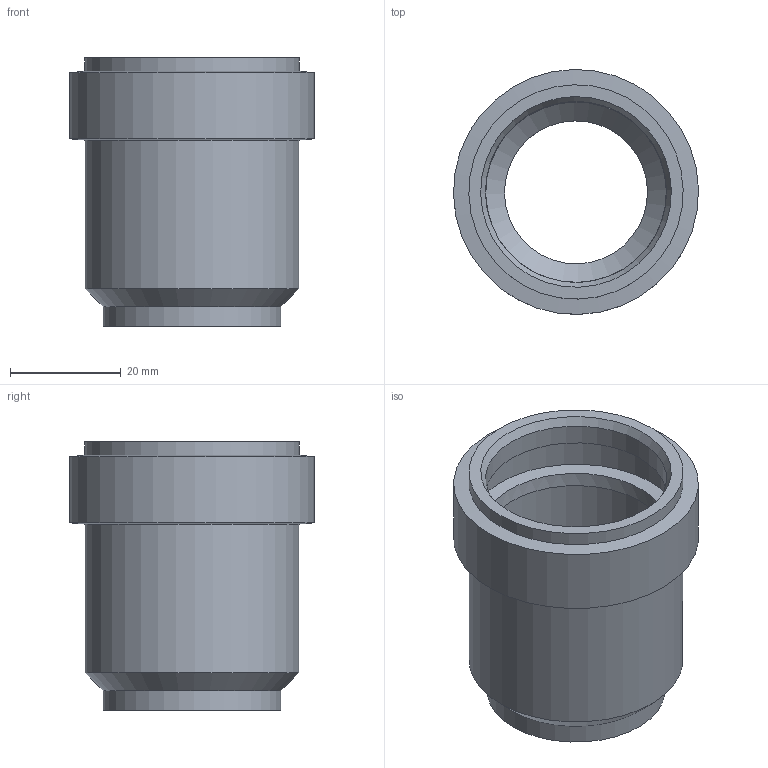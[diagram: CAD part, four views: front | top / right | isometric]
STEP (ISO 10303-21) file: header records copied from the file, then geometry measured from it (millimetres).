
FILE_DESCRIPTION(/* description */ ('CAx-IF Rec.Pracs.---Model Styling and Organization---1.2---2011-12-15'),/* implementation_level */ '2;1');
FILE_NAME(/* name */ 'C:\Geberit-Teile\Export 2019\379.768.16.3\stp\379768.stp',/* time_stamp */ '2019-06-06T10:49:14+02:00',/* author */ ('JANAN'),/* organization */ (''),/* preprocessor_version */ 'ST-DEVELOPER v16.13',/* originating_system */ 'Autodesk Inventor 2018',/* authorisation */ '');
FILE_SCHEMA (('AUTOMOTIVE_DESIGN { 1 0 10303 214 3 1 1 }'));
Length unit declared in the file: millimetre
Products named in the file (1): StMuf mit LipDicht PE-HD d32/di32 L4.8
Bounding box: 44.29 x 44.29 x 48.5 mm (x, y, z)
Volume: 18678.2 mm3; surface area: 13022.2 mm2
Topology: 1 solids, 1 shells, 18 faces, 37 edges, 21 vertices
Faces by surface type: cylinder 8, cone 8, plane 2
Full cylindrical faces by diameter (mm): 25.85 x1, 32.15 x1, 32.65 x1, 32.75 x1, 38.3 x1, 38.65 x1, 38.75 x1, 44.3 x1
Entity records: 425 total; most frequent: DIRECTION 74, CARTESIAN_POINT 55, AXIS2_PLACEMENT_3D 37, EDGE_LOOP 36, ORIENTED_EDGE 36, STYLED_ITEM 19, FACE_BOUND 18, FACE_OUTER_BOUND 18
